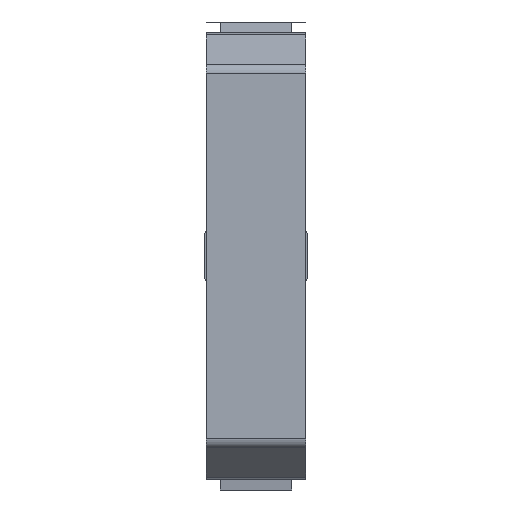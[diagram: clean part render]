
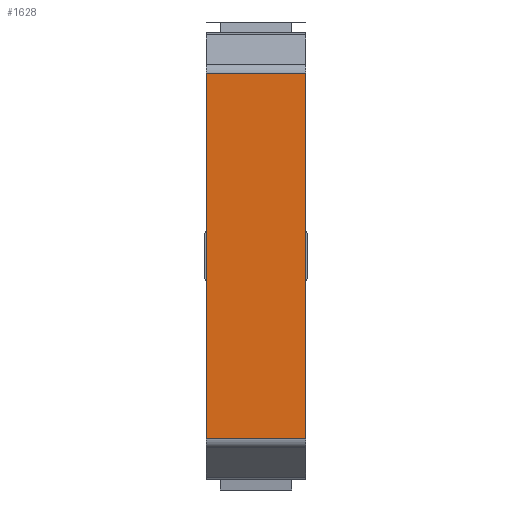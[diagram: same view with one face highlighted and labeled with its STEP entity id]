
A CAD part, left-side view. The second image highlights one B-rep face of the part: STEP entity #1628.
In plain terms, the highlighted planar face has unit normal (-1, 0, 0).
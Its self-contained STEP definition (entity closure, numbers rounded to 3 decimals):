
#194 = ORIENTED_EDGE ( 'NONE', *, *, #1424, .F. ) ;
#195 = ORIENTED_EDGE ( 'NONE', *, *, #1509, .F. ) ;
#196 = ORIENTED_EDGE ( 'NONE', *, *, #1414, .T. ) ;
#197 = ORIENTED_EDGE ( 'NONE', *, *, #1508, .T. ) ;
#456 = FACE_OUTER_BOUND ( 'NONE', #998, .T. ) ;
#631 = VECTOR ( 'NONE', #2270, 1000. ) ;
#633 = VECTOR ( 'NONE', #2549, 1000. ) ;
#634 = LINE ( 'NONE', #2303, #631 ) ;
#635 = LINE ( 'NONE', #2541, #633 ) ;
#780 = VECTOR ( 'NONE', #2136, 1000. ) ;
#785 = LINE ( 'NONE', #2383, #780 ) ;
#796 = VECTOR ( 'NONE', #2179, 1000. ) ;
#798 = LINE ( 'NONE', #2451, #796 ) ;
#998 = EDGE_LOOP ( 'NONE', ( #194, #195, #196, #197 ) ) ;
#1019 = VERTEX_POINT ( 'NONE', #2390 ) ;
#1024 = VERTEX_POINT ( 'NONE', #2090 ) ;
#1117 = VERTEX_POINT ( 'NONE', #2553 ) ;
#1135 = VERTEX_POINT ( 'NONE', #2187 ) ;
#1269 = AXIS2_PLACEMENT_3D ( 'NONE', #1708, #1703, #1702 ) ;
#1414 = EDGE_CURVE ( 'NONE', #1019, #1117, #798, .T. ) ;
#1424 = EDGE_CURVE ( 'NONE', #1024, #1135, #785, .T. ) ;
#1508 = EDGE_CURVE ( 'NONE', #1117, #1135, #635, .T. ) ;
#1509 = EDGE_CURVE ( 'NONE', #1019, #1024, #634, .T. ) ;
#1628 = ADVANCED_FACE ( 'NONE', ( #456 ), #1706, .T. ) ;
#1702 = DIRECTION ( 'NONE',  ( 0., 0., 1. ) ) ;
#1703 = DIRECTION ( 'NONE',  ( -1., 0., 0. ) ) ;
#1706 = PLANE ( 'NONE',  #1269 ) ;
#1708 = CARTESIAN_POINT ( 'NONE',  ( -23.5, 5., 0. ) ) ;
#2090 = CARTESIAN_POINT ( 'NONE',  ( -23.5, -5., 18.423 ) ) ;
#2136 = DIRECTION ( 'NONE',  ( 0., 0., -1. ) ) ;
#2179 = DIRECTION ( 'NONE',  ( 0., 0., -1. ) ) ;
#2187 = CARTESIAN_POINT ( 'NONE',  ( -23.5, -5., -18.423 ) ) ;
#2270 = DIRECTION ( 'NONE',  ( 0., -1., 0. ) ) ;
#2303 = CARTESIAN_POINT ( 'NONE',  ( -23.5, 5., 18.423 ) ) ;
#2383 = CARTESIAN_POINT ( 'NONE',  ( -23.5, -5., 0. ) ) ;
#2390 = CARTESIAN_POINT ( 'NONE',  ( -23.5, 5., 18.423 ) ) ;
#2451 = CARTESIAN_POINT ( 'NONE',  ( -23.5, 5., 0. ) ) ;
#2541 = CARTESIAN_POINT ( 'NONE',  ( -23.5, 5., -18.423 ) ) ;
#2549 = DIRECTION ( 'NONE',  ( 0., -1., 0. ) ) ;
#2553 = CARTESIAN_POINT ( 'NONE',  ( -23.5, 5., -18.423 ) ) ;
